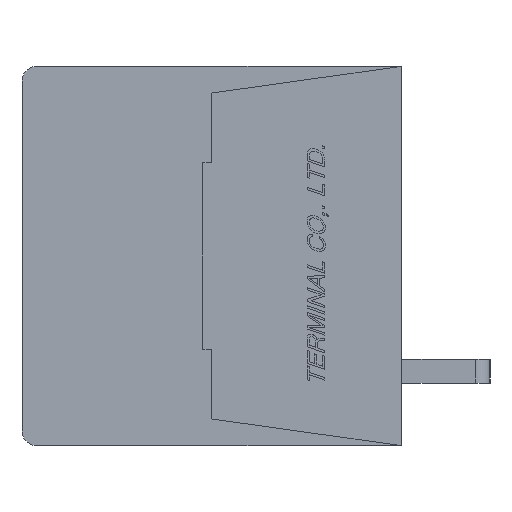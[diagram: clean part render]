
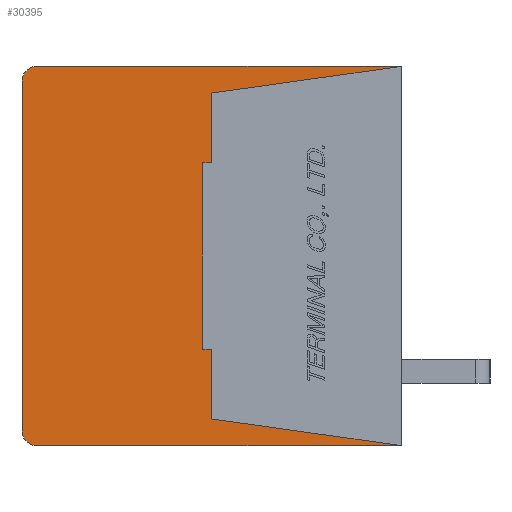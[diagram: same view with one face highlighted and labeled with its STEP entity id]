
A CAD part, left-side view. The second image highlights one B-rep face of the part: STEP entity #30395.
In plain terms, the highlighted planar face has unit normal (-1, 0, 0).
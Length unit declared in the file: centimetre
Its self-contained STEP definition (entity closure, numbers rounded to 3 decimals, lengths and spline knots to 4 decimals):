
#1567=CIRCLE('',#52014,0.05);
#1568=CIRCLE('',#52017,0.05);
#2715=VERTEX_POINT('',#42305);
#2716=VERTEX_POINT('',#42307);
#2717=VERTEX_POINT('',#42311);
#2718=VERTEX_POINT('',#42315);
#2719=VERTEX_POINT('',#42319);
#2720=VERTEX_POINT('',#42323);
#2721=VERTEX_POINT('',#42327);
#2722=VERTEX_POINT('',#42329);
#2723=VERTEX_POINT('',#42331);
#2724=VERTEX_POINT('',#42333);
#2725=VERTEX_POINT('',#42335);
#2726=VERTEX_POINT('',#42337);
#5940=VECTOR('',#35213,1.);
#5944=VECTOR('',#35222,1.);
#5947=VECTOR('',#35230,1.);
#5948=VECTOR('',#35232,1.);
#5949=VECTOR('',#35233,1.);
#5950=VECTOR('',#35234,1.);
#5951=VECTOR('',#35235,1.);
#5952=VECTOR('',#35236,1.);
#5953=VECTOR('',#35237,1.);
#5954=VECTOR('',#35238,1.);
#9519=LINE('',#42306,#5940);
#9523=LINE('',#42316,#5944);
#9526=LINE('',#42324,#5947);
#9527=LINE('',#42326,#5948);
#9528=LINE('',#42328,#5949);
#9529=LINE('',#42330,#5950);
#9530=LINE('',#42332,#5951);
#9531=LINE('',#42334,#5952);
#9532=LINE('',#42336,#5953);
#9533=LINE('',#42338,#5954);
#13500=EDGE_CURVE('',#2716,#2715,#9519,.T.);
#13503=EDGE_CURVE('',#2717,#2715,#1567,.T.);
#13505=EDGE_CURVE('',#2717,#2718,#9523,.T.);
#13507=EDGE_CURVE('',#2719,#2718,#1568,.T.);
#13509=EDGE_CURVE('',#2719,#2720,#9526,.T.);
#13510=EDGE_CURVE('',#2721,#2716,#9527,.T.);
#13511=EDGE_CURVE('',#2720,#2722,#9528,.T.);
#13512=EDGE_CURVE('',#2722,#2723,#9529,.T.);
#13513=EDGE_CURVE('',#2723,#2724,#9530,.T.);
#13514=EDGE_CURVE('',#2724,#2725,#9531,.T.);
#13515=EDGE_CURVE('',#2725,#2726,#9532,.T.);
#13516=EDGE_CURVE('',#2726,#2721,#9533,.T.);
#19678=ORIENTED_EDGE('',*,*,#13510,.T.);
#19679=ORIENTED_EDGE('',*,*,#13500,.T.);
#19680=ORIENTED_EDGE('',*,*,#13503,.F.);
#19681=ORIENTED_EDGE('',*,*,#13505,.T.);
#19682=ORIENTED_EDGE('',*,*,#13507,.F.);
#19683=ORIENTED_EDGE('',*,*,#13509,.T.);
#19684=ORIENTED_EDGE('',*,*,#13511,.T.);
#19685=ORIENTED_EDGE('',*,*,#13512,.T.);
#19686=ORIENTED_EDGE('',*,*,#13513,.T.);
#19687=ORIENTED_EDGE('',*,*,#13514,.T.);
#19688=ORIENTED_EDGE('',*,*,#13515,.T.);
#19689=ORIENTED_EDGE('',*,*,#13516,.T.);
#26471=EDGE_LOOP('',(#19678,#19679,#19680,#19681,#19682,#19683,#19684,#19685,
#19686,#19687,#19688,#19689));
#28476=FACE_BOUND('',#26471,.T.);
#30395=ADVANCED_FACE('',(#28476),#32052,.F.);
#32052=PLANE('',#52019);
#35213=DIRECTION('',(0.,1.,0.));
#35218=DIRECTION('',(1.,0.,0.));
#35219=DIRECTION('',(0.,0.,-0.05));
#35222=DIRECTION('',(0.,0.,-1.));
#35226=DIRECTION('',(1.,0.,0.));
#35227=DIRECTION('',(0.,0.,-0.05));
#35230=DIRECTION('',(0.,-1.,0.));
#35231=DIRECTION('',(1.,0.,0.));
#35232=DIRECTION('',(0.,-0.99,0.139));
#35233=DIRECTION('',(0.,0.99,0.139));
#35234=DIRECTION('',(0.,0.,1.));
#35235=DIRECTION('',(0.,1.,0.));
#35236=DIRECTION('',(0.,0.,1.));
#35237=DIRECTION('',(0.,-1.,0.));
#35238=DIRECTION('',(0.,0.,1.));
#42305=CARTESIAN_POINT('',(-0.889,1.23,0.64));
#42306=CARTESIAN_POINT('',(-0.889,0.,0.64));
#42307=CARTESIAN_POINT('',(-0.889,0.,0.64));
#42311=CARTESIAN_POINT('',(-0.889,1.28,0.59));
#42312=CARTESIAN_POINT('',(-0.889,1.23,0.59));
#42315=CARTESIAN_POINT('',(-0.889,1.28,-0.59));
#42316=CARTESIAN_POINT('',(-0.889,1.28,0.59));
#42319=CARTESIAN_POINT('',(-0.889,1.23,-0.64));
#42320=CARTESIAN_POINT('',(-0.889,1.23,-0.59));
#42323=CARTESIAN_POINT('',(-0.889,0.,-0.64));
#42324=CARTESIAN_POINT('',(-0.889,1.23,-0.64));
#42325=CARTESIAN_POINT('',(-0.889,0.6345,0.));
#42326=CARTESIAN_POINT('',(-0.889,0.64,0.55));
#42327=CARTESIAN_POINT('',(-0.889,0.64,0.55));
#42328=CARTESIAN_POINT('',(-0.889,0.,-0.64));
#42329=CARTESIAN_POINT('',(-0.889,0.64,-0.55));
#42330=CARTESIAN_POINT('',(-0.889,0.64,-0.55));
#42331=CARTESIAN_POINT('',(-0.889,0.64,-0.315));
#42332=CARTESIAN_POINT('',(-0.889,0.64,-0.315));
#42333=CARTESIAN_POINT('',(-0.889,0.67,-0.315));
#42334=CARTESIAN_POINT('',(-0.889,0.67,-0.315));
#42335=CARTESIAN_POINT('',(-0.889,0.67,0.315));
#42336=CARTESIAN_POINT('',(-0.889,0.67,0.315));
#42337=CARTESIAN_POINT('',(-0.889,0.64,0.315));
#42338=CARTESIAN_POINT('',(-0.889,0.64,0.315));
#52014=AXIS2_PLACEMENT_3D('',#42312,#35218,#35219);
#52017=AXIS2_PLACEMENT_3D('',#42320,#35226,#35227);
#52019=AXIS2_PLACEMENT_3D('',#42325,#35231,$);
